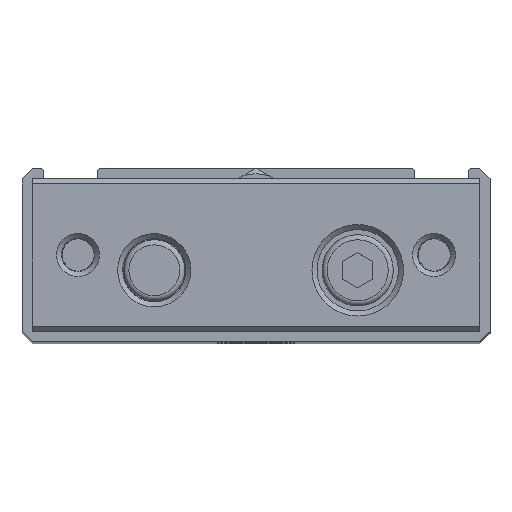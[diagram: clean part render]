
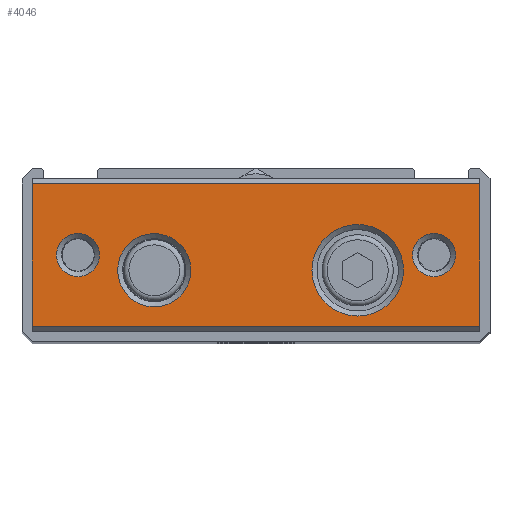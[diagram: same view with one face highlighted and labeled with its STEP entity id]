
A CAD part, top view. The second image highlights one B-rep face of the part: STEP entity #4046.
In plain terms, the highlighted planar face has unit normal (0, 0, 1).
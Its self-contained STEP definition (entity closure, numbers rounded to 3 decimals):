
#3142=CARTESIAN_POINT('',(22.0,7.0,129.));
#3143=VERTEX_POINT('',#3142);
#3151=CARTESIAN_POINT('',(-22.0,7.0,129.));
#3152=VERTEX_POINT('',#3151);
#3159=CARTESIAN_POINT('',(-22.0,7.0,129.));
#3160=DIRECTION('',(1.0,0.0,0.0));
#3161=VECTOR('',#3160,44.0);
#3162=LINE('',#3159,#3161);
#3163=EDGE_CURVE('',#3152,#3143,#3162,.T.);
#3239=CARTESIAN_POINT('',(-22.0,-7.0,129.));
#3240=VERTEX_POINT('',#3239);
#3247=CARTESIAN_POINT('',(-22.0,7.0,129.));
#3248=DIRECTION('',(0.0,-1.0,0.0));
#3249=VECTOR('',#3248,14.0);
#3250=LINE('',#3247,#3249);
#3251=EDGE_CURVE('',#3152,#3240,#3250,.T.);
#3403=CARTESIAN_POINT('',(22.0,-7.0,129.));
#3404=VERTEX_POINT('',#3403);
#3405=CARTESIAN_POINT('',(22.0,-7.0,129.));
#3406=DIRECTION('',(0.0,1.0,0.0));
#3407=VECTOR('',#3406,14.0);
#3408=LINE('',#3405,#3407);
#3409=EDGE_CURVE('',#3404,#3143,#3408,.T.);
#3982=CARTESIAN_POINT('',(14.5,-1.5,129.));
#3983=VERTEX_POINT('',#3982);
#3984=CARTESIAN_POINT('',(10.0,-1.5,129.));
#3985=DIRECTION('',(0.0,0.0,1.0));
#3986=DIRECTION('',(-1.0,0.0,0.0));
#3987=AXIS2_PLACEMENT_3D('',#3984,#3985,#3986);
#3988=CIRCLE('',#3987,4.5);
#3989=EDGE_CURVE('',#3983,#3983,#3988,.T.);
#3994=CARTESIAN_POINT('',(0.0,-7.5,129.));
#3995=DIRECTION('',(0.0,0.0,1.0));
#3996=DIRECTION('',(1.0,0.0,0.0));
#3997=AXIS2_PLACEMENT_3D('',#3994,#3995,#3996);
#3998=PLANE('',#3997);
#3999=ORIENTED_EDGE('',*,*,#3163,.F.);
#4000=ORIENTED_EDGE('',*,*,#3251,.T.);
#4001=CARTESIAN_POINT('',(22.0,-7.0,129.));
#4002=DIRECTION('',(-1.0,0.0,0.0));
#4003=VECTOR('',#4002,44.0);
#4004=LINE('',#4001,#4003);
#4005=EDGE_CURVE('',#3404,#3240,#4004,.T.);
#4006=ORIENTED_EDGE('',*,*,#4005,.F.);
#4007=ORIENTED_EDGE('',*,*,#3409,.T.);
#4008=EDGE_LOOP('',(#3999,#4000,#4006,#4007));
#4009=FACE_OUTER_BOUND('',#4008,.T.);
#4010=CARTESIAN_POINT('',(-6.4,-1.5,129.));
#4011=VERTEX_POINT('',#4010);
#4012=CARTESIAN_POINT('',(-10.0,-1.5,129.));
#4013=DIRECTION('',(0.0,0.0,1.0));
#4014=DIRECTION('',(-1.0,0.0,0.0));
#4015=AXIS2_PLACEMENT_3D('',#4012,#4013,#4014);
#4016=CIRCLE('',#4015,3.6);
#4017=EDGE_CURVE('',#4011,#4011,#4016,.T.);
#4018=ORIENTED_EDGE('',*,*,#4017,.F.);
#4019=EDGE_LOOP('',(#4018));
#4020=FACE_BOUND('',#4019,.T.);
#4021=CARTESIAN_POINT('',(19.621,0.,129.));
#4022=VERTEX_POINT('',#4021);
#4023=CARTESIAN_POINT('',(17.5,0.0,129.));
#4024=DIRECTION('',(0.0,0.0,1.0));
#4025=DIRECTION('',(-1.0,0.0,0.0));
#4026=AXIS2_PLACEMENT_3D('',#4023,#4024,#4025);
#4027=CIRCLE('',#4026,2.121);
#4028=EDGE_CURVE('',#4022,#4022,#4027,.T.);
#4029=ORIENTED_EDGE('',*,*,#4028,.F.);
#4030=EDGE_LOOP('',(#4029));
#4031=FACE_BOUND('',#4030,.T.);
#4032=CARTESIAN_POINT('',(-15.379,0.,129.));
#4033=VERTEX_POINT('',#4032);
#4034=CARTESIAN_POINT('',(-17.5,0.0,129.));
#4035=DIRECTION('',(0.0,0.0,1.0));
#4036=DIRECTION('',(-1.0,0.0,0.0));
#4037=AXIS2_PLACEMENT_3D('',#4034,#4035,#4036);
#4038=CIRCLE('',#4037,2.121);
#4039=EDGE_CURVE('',#4033,#4033,#4038,.T.);
#4040=ORIENTED_EDGE('',*,*,#4039,.F.);
#4041=EDGE_LOOP('',(#4040));
#4042=FACE_BOUND('',#4041,.T.);
#4043=ORIENTED_EDGE('',*,*,#3989,.F.);
#4044=EDGE_LOOP('',(#4043));
#4045=FACE_BOUND('',#4044,.T.);
#4046=ADVANCED_FACE('',(#4009,#4020,#4031,#4042,#4045),#3998,.T.);
